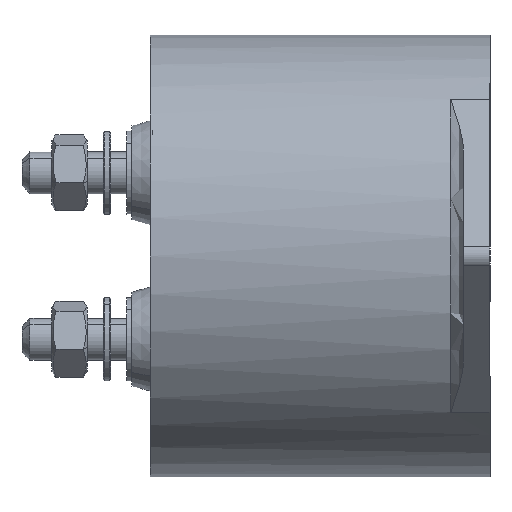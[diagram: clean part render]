
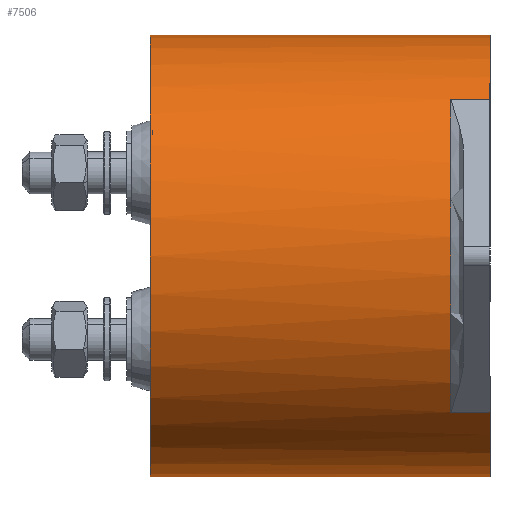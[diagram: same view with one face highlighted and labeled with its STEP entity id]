
A CAD part, left-side view. The second image highlights one B-rep face of the part: STEP entity #7506.
In plain terms, the highlighted cylindrical face has radius 42.25 mm (diameter 84.5 mm), a partial arc.
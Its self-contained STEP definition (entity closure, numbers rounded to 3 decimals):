
#97 = VECTOR ( 'NONE', #2551, 1000. ) ;
#175 = ORIENTED_EDGE ( 'NONE', *, *, #1530, .F. ) ;
#194 = LINE ( 'NONE', #4941, #1627 ) ;
#235 = VERTEX_POINT ( 'NONE', #2402 ) ;
#257 = CARTESIAN_POINT ( 'NONE',  ( -29.857, 5., -29.894 ) ) ;
#469 = CARTESIAN_POINT ( 'NONE',  ( 0., 0., 42.25 ) ) ;
#581 = DIRECTION ( 'NONE',  ( 0., -1., 0. ) ) ;
#808 = VERTEX_POINT ( 'NONE', #2475 ) ;
#927 = VERTEX_POINT ( 'NONE', #469 ) ;
#1018 = CIRCLE ( 'NONE', #3865, 42.25 ) ;
#1019 = AXIS2_PLACEMENT_3D ( 'NONE', #5016, #5491, #3748 ) ;
#1081 = DIRECTION ( 'NONE',  ( 0., 0., -1. ) ) ;
#1310 = ORIENTED_EDGE ( 'NONE', *, *, #7407, .F. ) ;
#1333 = CARTESIAN_POINT ( 'NONE',  ( 0., 0., 42.25 ) ) ;
#1440 = EDGE_CURVE ( 'NONE', #6529, #808, #1834, .T. ) ;
#1471 = CIRCLE ( 'NONE', #4685, 42.25 ) ;
#1530 = EDGE_CURVE ( 'NONE', #5798, #808, #1471, .T. ) ;
#1556 = DIRECTION ( 'NONE',  ( 0., -1., 0. ) ) ;
#1627 = VECTOR ( 'NONE', #6702, 1000. ) ;
#1834 = LINE ( 'NONE', #5060, #7032 ) ;
#2050 = CARTESIAN_POINT ( 'NONE',  ( -29.857, 7.5, 29.894 ) ) ;
#2211 = CARTESIAN_POINT ( 'NONE',  ( 0., 0., 0. ) ) ;
#2228 = LINE ( 'NONE', #1333, #5322 ) ;
#2292 = DIRECTION ( 'NONE',  ( 0., 0., -1. ) ) ;
#2307 = EDGE_CURVE ( 'NONE', #235, #5916, #4819, .T. ) ;
#2361 = ORIENTED_EDGE ( 'NONE', *, *, #6954, .F. ) ;
#2402 = CARTESIAN_POINT ( 'NONE',  ( -29.857, 7.5, -29.894 ) ) ;
#2423 = DIRECTION ( 'NONE',  ( 0., 0., -1. ) ) ;
#2475 = CARTESIAN_POINT ( 'NONE',  ( 0., 0., -42.25 ) ) ;
#2509 = CARTESIAN_POINT ( 'NONE',  ( -29.857, 0., -29.894 ) ) ;
#2551 = DIRECTION ( 'NONE',  ( 0., -1., 0. ) ) ;
#2594 = ORIENTED_EDGE ( 'NONE', *, *, #3417, .T. ) ;
#2735 = ORIENTED_EDGE ( 'NONE', *, *, #2307, .T. ) ;
#2771 = DIRECTION ( 'NONE',  ( 0., -1., 0. ) ) ;
#3345 = ORIENTED_EDGE ( 'NONE', *, *, #4379, .F. ) ;
#3417 = EDGE_CURVE ( 'NONE', #5916, #7465, #194, .T. ) ;
#3619 = DIRECTION ( 'NONE',  ( 0., 1., 0. ) ) ;
#3748 = DIRECTION ( 'NONE',  ( 0., 0., -1. ) ) ;
#3865 = AXIS2_PLACEMENT_3D ( 'NONE', #2211, #6327, #1081 ) ;
#3925 = CARTESIAN_POINT ( 'NONE',  ( 0., 0., 0. ) ) ;
#3961 = CIRCLE ( 'NONE', #1019, 42.25 ) ;
#3985 = DIRECTION ( 'NONE',  ( 0., 0., -1. ) ) ;
#4204 = EDGE_LOOP ( 'NONE', ( #2361, #7220, #7567, #175, #3345, #2735, #2594, #1310 ) ) ;
#4379 = EDGE_CURVE ( 'NONE', #235, #5798, #6013, .T. ) ;
#4426 = EDGE_CURVE ( 'NONE', #6883, #6529, #3961, .T. ) ;
#4593 = CARTESIAN_POINT ( 'NONE',  ( 0., 65., -42.25 ) ) ;
#4685 = AXIS2_PLACEMENT_3D ( 'NONE', #3925, #2771, #3985 ) ;
#4721 = AXIS2_PLACEMENT_3D ( 'NONE', #6004, #3619, #2423 ) ;
#4819 = CIRCLE ( 'NONE', #4721, 42.25 ) ;
#4941 = CARTESIAN_POINT ( 'NONE',  ( -29.857, 5., 29.894 ) ) ;
#5016 = CARTESIAN_POINT ( 'NONE',  ( 0., 65., 0. ) ) ;
#5060 = CARTESIAN_POINT ( 'NONE',  ( 0., 0., -42.25 ) ) ;
#5322 = VECTOR ( 'NONE', #5492, 1000. ) ;
#5393 = CARTESIAN_POINT ( 'NONE',  ( 0., 65., 42.25 ) ) ;
#5491 = DIRECTION ( 'NONE',  ( 0., -1., 0. ) ) ;
#5492 = DIRECTION ( 'NONE',  ( 0., -1., 0. ) ) ;
#5689 = CYLINDRICAL_SURFACE ( 'NONE', #6048, 42.25 ) ;
#5798 = VERTEX_POINT ( 'NONE', #2509 ) ;
#5916 = VERTEX_POINT ( 'NONE', #2050 ) ;
#5977 = CARTESIAN_POINT ( 'NONE',  ( 0., 0., 0. ) ) ;
#6004 = CARTESIAN_POINT ( 'NONE',  ( 0., 7.5, 0. ) ) ;
#6013 = LINE ( 'NONE', #257, #97 ) ;
#6048 = AXIS2_PLACEMENT_3D ( 'NONE', #5977, #581, #2292 ) ;
#6327 = DIRECTION ( 'NONE',  ( 0., -1., 0. ) ) ;
#6529 = VERTEX_POINT ( 'NONE', #4593 ) ;
#6702 = DIRECTION ( 'NONE',  ( 0., -1., 0. ) ) ;
#6883 = VERTEX_POINT ( 'NONE', #5393 ) ;
#6889 = FACE_OUTER_BOUND ( 'NONE', #4204, .T. ) ;
#6954 = EDGE_CURVE ( 'NONE', #6883, #927, #2228, .T. ) ;
#7032 = VECTOR ( 'NONE', #1556, 1000. ) ;
#7054 = CARTESIAN_POINT ( 'NONE',  ( -29.857, 0., 29.894 ) ) ;
#7220 = ORIENTED_EDGE ( 'NONE', *, *, #4426, .T. ) ;
#7407 = EDGE_CURVE ( 'NONE', #927, #7465, #1018, .T. ) ;
#7465 = VERTEX_POINT ( 'NONE', #7054 ) ;
#7506 = ADVANCED_FACE ( 'NONE', ( #6889 ), #5689, .T. ) ;
#7567 = ORIENTED_EDGE ( 'NONE', *, *, #1440, .T. ) ;
